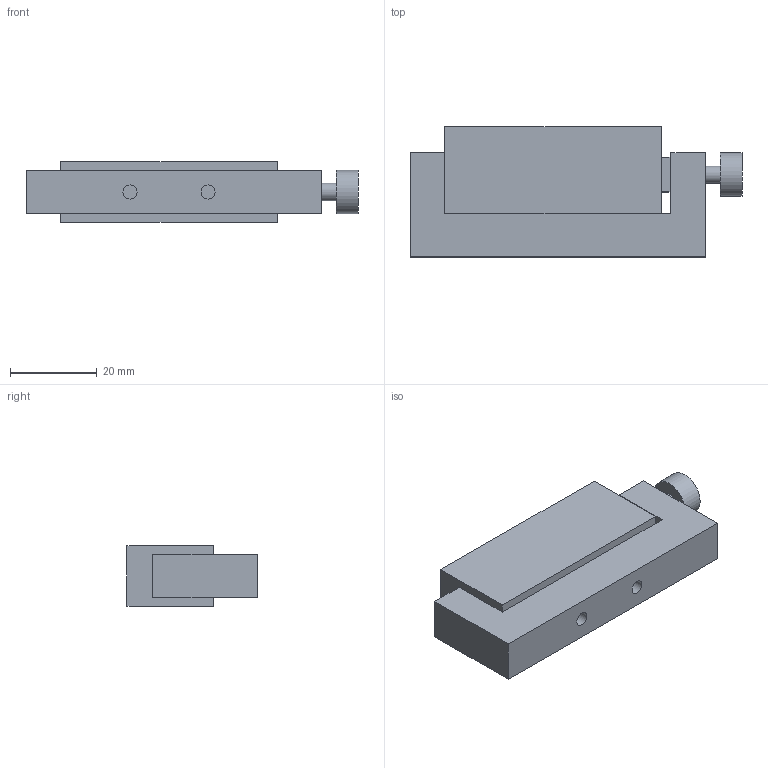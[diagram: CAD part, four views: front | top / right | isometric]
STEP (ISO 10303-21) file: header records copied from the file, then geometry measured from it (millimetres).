
FILE_DESCRIPTION(('Open CASCADE Model'),'2;1');
FILE_NAME('Open CASCADE Shape Model','2026-11-08T07:33:10',('Author'),( 'Open CASCADE'),'Open CASCADE STEP processor 7.8','Open CASCADE 7.8' ,'Unknown');
FILE_SCHEMA(('AUTOMOTIVE_DESIGN { 1 0 10303 214 1 1 1 1 }'));
Length unit declared in the file: millimetre
Products named in the file (5): R_clamped_S50_LOCAL_REFERENCE; 01_side_clamp_S50; 02_protective_pad; pressure_screw; local_S50_H14_patch_REFERENCE
Assembly tree (4 placements, depth 2):
  R_clamped_S50_LOCAL_REFERENCE
    01_side_clamp_S50
    02_protective_pad
    pressure_screw
    local_S50_H14_patch_REFERENCE
Bounding box: 76.6 x 30 x 14 mm (x, y, z)
Volume: 23494.8 mm3; surface area: 8793.9 mm2
Topology: 4 solids, 4 shells, 32 faces, 66 edges, 44 vertices
Faces by surface type: plane 26, cylinder 6
Full cylindrical faces by diameter (mm): 3.242 x3, 4 x1, 4.2 x1, 10 x1
Entity records: 1827 total; most frequent: CARTESIAN_POINT 285, DIRECTION 283, LINE 174, VECTOR 174, ORIENTED_EDGE 132, PCURVE 132, DEFINITIONAL_REPRESENTATION 132, EDGE_CURVE 66
